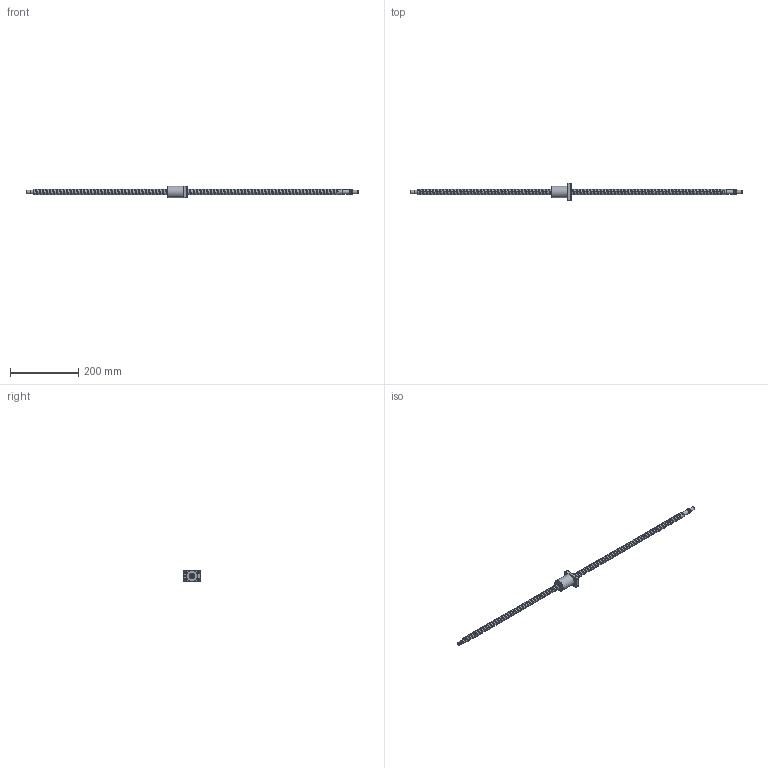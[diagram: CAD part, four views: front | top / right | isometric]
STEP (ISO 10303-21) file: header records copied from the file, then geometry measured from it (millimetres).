
FILE_DESCRIPTION (( 'STEP AP203' ), '1' );
FILE_NAME ('XSVR01510B1DGC5-971-P1.step', '2024-06-03T05:10:58', ( '' ), ( '' ), 'SwSTEP 2.0', 'SolidWorks 2022', '' );
FILE_SCHEMA (( 'CONFIG_CONTROL_DESIGN' ));
Length unit declared in the file: millimetre
Products named in the file (1): XSVR01510B1DGC5-971-P1
Bounding box: 971 x 50 x 34 mm (x, y, z)
Volume: 197773.2 mm3; surface area: 62782.8 mm2
Topology: 2 solids, 2 shells, 219 faces, 605 edges, 396 vertices
Faces by surface type: cylinder 142, plane 43, cone 15, bspline 10, torus 9
Full cylindrical faces by diameter (mm): 4 x1, 4.2 x15, 5 x6, 5.5 x4, 9.5 x4, 9.6 x1, 10 x3, 12 x9, 15 x89, 16.7 x1, 34 x1
Entity records: 24416 total; most frequent: CARTESIAN_POINT 22292, ORIENTED_EDGE 402, DIRECTION 391, EDGE_CURVE 201, AXIS2_PLACEMENT_3D 168, EDGE_LOOP 153, VERTEX_POINT 146, FACE_OUTER_BOUND 120
